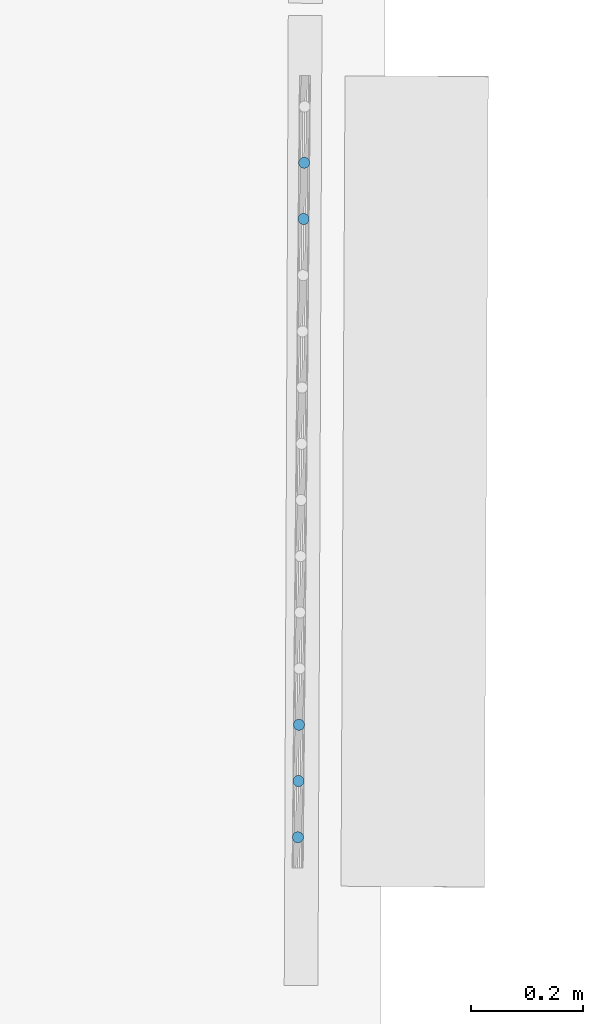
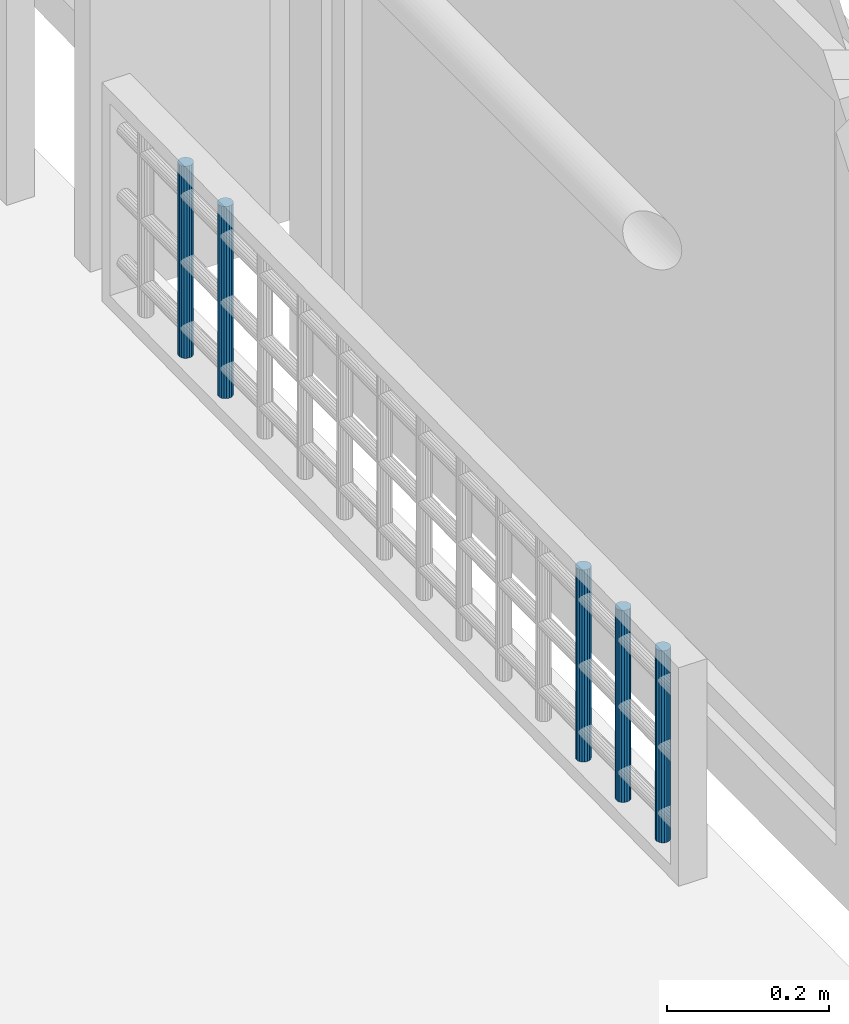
# One storey, part 26 of 66: 5 members, 1 element without a shape of its own.
"""IFC2X3 building model written with IfcOpenShell, lengths in centimetres."""

from ifc_helpers import new_model, entity, si_unit, converted_unit, direction, frame, origin, origin_with_axes, place, context, subcontext, project, spatial, faceted_brep, material, type_object, element, aggregate, save


model = new_model("IFC2X3")

# Units and contexts
model_context = context("Model", 3, precision=0.0001, world=origin(), true_north=direction((0.225632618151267, 0.974212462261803, 0.0)))
body_context = subcontext(model_context, "Body", "Model", "MODEL_VIEW")
ifc_project = project(units=[si_unit("LENGTHUNIT", "METRE", prefix="CENTI"), si_unit("AREAUNIT", "SQUARE_METRE", prefix="CENTI"), si_unit("VOLUMEUNIT", "CUBIC_METRE", prefix="CENTI"), converted_unit("PLANEANGLEUNIT", "DEGREE", entity("IfcRatioMeasure", 0.0174532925), si_unit("PLANEANGLEUNIT", "RADIAN"), dimensions=[0, 0, 0, 0, 0, 0, 0])], contexts=[model_context])

# Site, building, storey
site_placement = place(None, origin_with_axes())
site = spatial("IfcSite", under=ifc_project, at=site_placement, Name="Default Site", CompositionType="ELEMENT")
building_placement = place(site_placement, origin_with_axes())
building = spatial("IfcBuilding", under=site, at=building_placement, Name="Default Building", CompositionType="ELEMENT")
storey_placement = place(building_placement, frame((0.0, 0.0, 477.795358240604), z_axis=(0.0, 0.0, 1.0), x_axis=(1.0, 0.0, 0.0)))
storey = spatial("IfcBuildingStorey", under=building, at=storey_placement, Name="Niveau 1", CompositionType="ELEMENT", Elevation=477.795358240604)

# Assembly, members
building_element_proxy_type = type_object("IfcBuildingElementProxyType", Name="Type Object", PredefinedType="NOTDEFINED")
assembly_placement = place(storey_placement, frame((1064.33713672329, -30.426748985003, 9.99999999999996), z_axis=(0.0, 0.0, 1.0), x_axis=(-0.00922380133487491, -0.999957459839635, 0.0)))
assembly = element("IfcElementAssembly", 1, at=assembly_placement, inside=storey, type_object=building_element_proxy_type, Name="Panneau 1702026", ObjectType="Precast panel", PredefinedType="USERDEFINED")
ifc_material = material(Name="Aluminium satiné")
member_1_placement = place(assembly_placement, frame((18.4396922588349, 0.342020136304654, 31.0000002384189), z_axis=(0.0, 0.0, 1.0), x_axis=(0.499998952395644, -0.866026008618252, 0.0)))
member_1 = element("IfcMember", 2, at=member_1_placement, material=ifc_material, Name="4294967074", context=body_context, shape_type="Brep", body=[
    faceted_brep([(3.92741394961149e-13, -3.08086889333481e-13, -3.44169137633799e-13), (-0.347296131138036, -2.96984659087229e-13, -3.44169137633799e-13), (-0.673647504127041, -0.118782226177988, -3.44169137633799e-13), (-0.9396916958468, -0.342020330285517, -3.44169137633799e-13), (-1.11333977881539, -0.64278847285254, -3.44169137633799e-13), (-1.17364672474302, -0.984808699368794, -3.44169137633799e-13), (-1.11333938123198, -1.32682953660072, -3.44169137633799e-13), (-0.939690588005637, -1.62759638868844, -3.44169137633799e-13), (-0.673645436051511, -1.85083308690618, -3.44169137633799e-13), (-0.347293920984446, -1.96961580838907, -3.44169137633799e-13), (2.2101539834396e-06, -1.96961580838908, -3.44169137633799e-13), (0.326354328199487, -1.85083229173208, -3.44169137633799e-13), (0.592398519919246, -1.62759418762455, -3.44169137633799e-13), (0.766046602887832, -1.32682604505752, -3.44169137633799e-13), (0.826353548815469, -0.984805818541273, -3.44169137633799e-13), (0.766045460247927, -0.642786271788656, -3.44169137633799e-13), (0.592396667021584, -0.342019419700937, -3.44169137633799e-13), (0.326352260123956, -0.118781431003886, -3.44169137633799e-13), (0.326352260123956, -0.118781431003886, -29.0000002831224), (0.592396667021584, -0.342019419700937, -29.0000002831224), (0.766045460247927, -0.642786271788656, -29.0000002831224), (0.826353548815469, -0.984805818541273, -29.0000002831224), (0.766046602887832, -1.32682604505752, -29.0000002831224), (0.592398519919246, -1.62759418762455, -29.0000002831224), (0.326354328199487, -1.85083229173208, -29.0000002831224), (2.2101539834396e-06, -1.96961580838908, -29.0000002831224), (-0.347293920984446, -1.96961580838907, -29.0000002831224), (-0.673645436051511, -1.85083308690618, -29.0000002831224), (-0.939690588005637, -1.62759638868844, -29.0000002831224), (-1.11333938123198, -1.32682953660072, -29.0000002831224), (-1.17364672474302, -0.984808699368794, -29.0000002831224), (-1.11333977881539, -0.64278847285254, -29.0000002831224), (-0.9396916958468, -0.342020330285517, -29.0000002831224), (-0.673647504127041, -0.118782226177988, -29.0000002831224), (-0.347296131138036, -2.96984659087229e-13, -29.0000002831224), (3.92741394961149e-13, -3.08086889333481e-13, -29.0000002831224), (0.59239704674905, -0.342018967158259, -3.4416913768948e-13), (0.592397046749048, -0.342018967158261, -29.0000002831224), (0.326352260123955, -0.118781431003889, -29.0000002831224), (0.766045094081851, -0.642786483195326, -3.44169137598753e-13), (0.766045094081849, -0.642786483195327, -29.0000002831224), (0.592396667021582, -0.342019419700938, -29.0000002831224), (0.826353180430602, -0.984805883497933, -3.44169137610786e-13), (0.8263531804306, -0.984805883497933, -29.0000002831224), (0.766045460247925, -0.642786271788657, -29.0000002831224), (0.766046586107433, -1.32682604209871, -3.44169137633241e-13), (0.766046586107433, -1.32682604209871, -29.0000002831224), (0.826353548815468, -0.984805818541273, -29.0000002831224), (0.326354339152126, -1.8508323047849, -3.44169137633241e-13), (0.326354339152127, -1.8508323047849, -29.0000002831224), (0.592398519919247, -1.62759418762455, -29.0000002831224), (2.01049554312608e-06, -1.96961525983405, -3.44169137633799e-13), (2.01049554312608e-06, -1.96961525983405, -29.0000002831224), (-0.347293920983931, -1.96961623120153, -3.44169137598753e-13), (-0.347293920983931, -1.96961623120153, -29.0000002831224), (2.2101539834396e-06, -1.96961580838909, -29.0000002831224), (-0.673645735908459, -1.85083391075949, -3.44169137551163e-13), (-0.673645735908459, -1.85083391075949, -29.0000002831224), (-0.347293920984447, -1.96961580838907, -29.0000002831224), (-0.939690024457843, -1.62759571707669, -3.44169137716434e-13), (-0.939690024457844, -1.62759571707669, -29.0000002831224), (-0.673645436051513, -1.85083308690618, -29.0000002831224), (-1.1133390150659, -1.32682932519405, -3.44169137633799e-13), (-1.1133390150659, -1.32682932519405, -29.0000002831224), (-1.17364729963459, -0.98480880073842, -3.44169137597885e-13), (-1.17364729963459, -0.98480880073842, -29.0000002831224), (-1.11333976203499, -0.642788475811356, -3.44169137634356e-13), (-1.11333976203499, -0.642788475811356, -29.0000002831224), (-0.673647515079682, -0.11878221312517, -3.44169137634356e-13), (-0.673647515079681, -0.118782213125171, -29.0000002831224), (-0.9396916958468, -0.342020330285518, -29.0000002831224), (-0.347296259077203, 3.51508376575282e-07, -3.44169137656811e-13), (-0.347296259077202, 3.51508374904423e-07, -29.0000002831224), (-0.67364750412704, -0.11878222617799, -29.0000002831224), (-1.22007701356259e-13, 4.22812149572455e-07, -3.44169137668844e-13), (-1.22007698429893e-13, 4.22812147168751e-07, -29.0000002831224), (-0.347296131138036, -2.99388362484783e-13, -29.0000002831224), (0.326352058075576, -0.118781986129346, -3.44169137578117e-13), (0.326352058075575, -0.118781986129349, -29.0000002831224), (3.91806523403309e-13, -3.10655437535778e-13, -29.0000002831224)], [[[0, 1, 2, 3, 4, 5, 6, 7, 8, 9, 10, 11, 12, 13, 14, 15, 16, 17]], [[18, 19, 20, 21, 22, 23, 24, 25, 26, 27, 28, 29, 30, 31, 32, 33, 34, 35]], [[17, 36, 37, 38]], [[16, 39, 40, 41]], [[15, 42, 43, 44]], [[14, 45, 46, 47]], [[13, 12, 23, 22]], [[12, 48, 49, 50]], [[11, 51, 52, 24]], [[10, 53, 54, 55]], [[9, 56, 57, 58]], [[8, 59, 60, 61]], [[7, 62, 63, 28]], [[6, 64, 65, 29]], [[5, 66, 67, 30]], [[4, 3, 32, 31]], [[3, 68, 69, 70]], [[2, 71, 72, 73]], [[1, 74, 75, 76]], [[0, 77, 78, 79]]]),
])
member_2_placement = place(assembly_placement, frame((28.4396916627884, 0.342020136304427, 31.0000002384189), z_axis=(0.0, 0.0, 1.0), x_axis=(0.499995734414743, -0.866027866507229, 0.0)))
member_2 = element("IfcMember", 3, at=member_2_placement, material=ifc_material, Name="4294967073", context=body_context, shape_type="Brep", body=[
    faceted_brep([(5.96744875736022e-13, -3.71924713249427e-13, -2.60902410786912e-13), (-0.347295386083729, -4.44089209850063e-13, -2.60902410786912e-13), (-0.673647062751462, -0.118784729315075, -2.60902410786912e-13), (-0.939691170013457, -0.342025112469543, -2.60902410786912e-13), (-1.11333739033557, -0.642792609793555, -2.60902410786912e-13), (-1.17364232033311, -0.984811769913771, -2.60902410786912e-13), (-1.11333370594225, -1.32683238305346, -2.60902410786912e-13), (-0.93968454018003, -1.6275998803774, -2.60902410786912e-13), (-0.673639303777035, -1.85083688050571, -2.60902410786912e-13), (-0.347286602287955, -1.96961709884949, -2.60902410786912e-13), (1.0273899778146e-05, -1.96961451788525, -2.60902410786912e-13), (0.326361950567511, -1.85082978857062, -2.60902410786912e-13), (0.592404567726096, -1.62759198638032, -2.60902410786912e-13), (0.766050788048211, -1.32682448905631, -2.60902410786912e-13), (0.826357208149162, -0.984802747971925, -2.60902410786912e-13), (0.766048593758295, -0.642782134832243, -2.60902410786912e-13), (0.592397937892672, -0.342017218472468, -2.60902410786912e-13), (0.326352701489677, -0.118780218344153, -2.60902410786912e-13), (0.326352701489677, -0.118780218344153, -29.0000002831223), (0.592397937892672, -0.342017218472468, -29.0000002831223), (0.766048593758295, -0.642782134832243, -29.0000002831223), (0.826357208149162, -0.984802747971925, -29.0000002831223), (0.766050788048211, -1.32682448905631, -29.0000002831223), (0.592404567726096, -1.62759198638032, -29.0000002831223), (0.326361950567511, -1.85082978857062, -29.0000002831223), (1.0273899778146e-05, -1.96961451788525, -29.0000002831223), (-0.347286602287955, -1.96961709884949, -29.0000002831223), (-0.673639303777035, -1.85083688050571, -29.0000002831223), (-0.93968454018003, -1.6275998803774, -29.0000002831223), (-1.11333370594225, -1.32683238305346, -29.0000002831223), (-1.17364232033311, -0.984811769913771, -29.0000002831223), (-1.11333739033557, -0.642792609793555, -29.0000002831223), (-0.939691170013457, -0.342025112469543, -29.0000002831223), (-0.673647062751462, -0.118784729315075, -29.0000002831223), (-0.347295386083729, -4.44089209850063e-13, -29.0000002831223), (5.96744875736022e-13, -3.71924713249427e-13, -29.0000002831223), (0.592398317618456, -0.342016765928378, -2.60902410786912e-13), (0.592398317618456, -0.342016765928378, -29.0000002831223), (0.766047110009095, -0.642782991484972, -2.60902410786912e-13), (0.766047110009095, -0.642782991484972, -29.0000002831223), (0.826357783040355, -0.984802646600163, -2.60902410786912e-13), (0.826357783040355, -0.984802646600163, -29.0000002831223), (0.766051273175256, -1.32682457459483, -2.60902410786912e-13), (0.766051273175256, -1.32682457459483, -29.0000002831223), (0.592404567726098, -1.62759198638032, -2.60902410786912e-13), (0.592404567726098, -1.62759198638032, -29.0000002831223), (0.326362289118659, -1.85083019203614, -2.60902410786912e-13), (0.326362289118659, -1.85083019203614, -29.0000002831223), (1.00742392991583e-05, -1.96961396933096, -2.60902410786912e-13), (1.00742392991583e-05, -1.96961396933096, -29.0000002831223), (-0.347286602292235, -1.96961623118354, -2.60902410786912e-13), (-0.347286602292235, -1.96961623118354, -29.0000002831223), (-0.673639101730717, -1.8508363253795, -2.60902410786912e-13), (-0.673639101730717, -1.8508363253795, -29.0000002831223), (-0.939684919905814, -1.62760033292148, -2.60902410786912e-13), (-0.939684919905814, -1.62760033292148, -29.0000002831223), (-1.11333445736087, -1.32683281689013, -2.60902410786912e-13), (-1.11333445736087, -1.32683281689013, -29.0000002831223), (-1.17364289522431, -0.984811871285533, -2.60902410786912e-13), (-1.17364289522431, -0.984811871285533, -29.0000002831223), (-1.1133368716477, -0.64279270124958, -2.60902410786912e-13), (-1.1133368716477, -0.64279270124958, -29.0000002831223), (-0.939691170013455, -0.342025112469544, -2.60902410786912e-13), (-0.939691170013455, -0.342025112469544, -29.0000002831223), (-0.673646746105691, -0.118785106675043, -2.60902410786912e-13), (-0.673646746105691, -0.118785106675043, -29.0000002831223), (-0.347295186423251, -5.485547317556e-07, -2.60902410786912e-13), (-0.347295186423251, -5.485547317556e-07, -29.0000002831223), (-7.85532740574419e-12, 1.71329049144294e-06, -2.60902410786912e-13), (-7.85532740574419e-12, 1.71329049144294e-06, -29.0000002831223), (0.326352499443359, -0.118780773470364, -2.60902410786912e-13), (0.326352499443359, -0.118780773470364, -29.0000002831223)], [[[0, 1, 2, 3, 4, 5, 6, 7, 8, 9, 10, 11, 12, 13, 14, 15, 16, 17]], [[18, 19, 20, 21, 22, 23, 24, 25, 26, 27, 28, 29, 30, 31, 32, 33, 34, 35]], [[17, 36, 37, 18]], [[16, 38, 39, 19]], [[15, 40, 41, 20]], [[14, 42, 43, 21]], [[13, 44, 45, 22]], [[12, 46, 47, 23]], [[11, 48, 49, 24]], [[10, 50, 51, 25]], [[9, 52, 53, 26]], [[8, 54, 55, 27]], [[7, 56, 57, 28]], [[6, 58, 59, 29]], [[5, 60, 61, 30]], [[4, 62, 63, 31]], [[3, 64, 65, 32]], [[2, 66, 67, 33]], [[1, 68, 69, 34]], [[0, 70, 71, 35]]]),
])
member_3_placement = place(assembly_placement, frame((118.439698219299, 0.342020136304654, 31.0000002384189), z_axis=(0.0, 0.0, 1.0), x_axis=(0.500008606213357, -0.866020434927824, 0.0)))
member_3 = element("IfcMember", 4, at=member_3_placement, material=ifc_material, Name="4294967064", context=body_context, shape_type="Brep", body=[
    faceted_brep([(2.88657986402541e-13, -3.5527136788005e-13, -2.60902410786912e-13), (-0.347298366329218, -3.77475828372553e-13, -2.60902410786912e-13), (-0.673654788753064, -0.118785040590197, -2.60902410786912e-13), (-0.939699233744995, -0.342016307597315, -2.60902410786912e-13), (-1.11334843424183, -0.642778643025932, -2.60902410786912e-13), (-1.17366291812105, -0.984804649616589, -2.60902410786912e-13), (-1.11335640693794, -1.32682099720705, -2.60902410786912e-13), (-0.939713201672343, -1.62759365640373, -2.60902410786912e-13), (-0.673671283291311, -1.85083461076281, -2.60902410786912e-13), (-0.347320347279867, -1.96961967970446, -2.60902410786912e-13), (-2.19809503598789e-05, -1.96961967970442, -2.60902410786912e-13), (0.326328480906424, -1.85084496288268, -2.60902410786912e-13), (0.592378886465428, -1.6276033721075, -2.60902410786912e-13), (0.766028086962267, -1.32684103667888, -2.60902410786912e-13), (0.826336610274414, -0.984825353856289, -2.60902410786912e-13), (0.766036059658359, -0.642798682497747, -2.60902410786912e-13), (0.592392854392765, -0.34202602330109, -2.60902410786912e-13), (0.32634497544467, -0.118795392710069, -2.60902410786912e-13), (0.32634497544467, -0.118795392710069, -29.0000002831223), (0.592392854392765, -0.34202602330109, -29.0000002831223), (0.766036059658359, -0.642798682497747, -29.0000002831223), (0.826336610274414, -0.984825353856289, -29.0000002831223), (0.766028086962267, -1.32684103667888, -29.0000002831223), (0.592378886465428, -1.6276033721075, -29.0000002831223), (0.326328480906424, -1.85084496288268, -29.0000002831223), (-2.19809503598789e-05, -1.96961967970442, -29.0000002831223), (-0.347320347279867, -1.96961967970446, -29.0000002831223), (-0.673671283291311, -1.85083461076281, -29.0000002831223), (-0.939713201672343, -1.62759365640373, -29.0000002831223), (-1.11335640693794, -1.32682099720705, -29.0000002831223), (-1.17366291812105, -0.984804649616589, -29.0000002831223), (-1.11334843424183, -0.642778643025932, -29.0000002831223), (-0.939699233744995, -0.342016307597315, -29.0000002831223), (-0.673654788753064, -0.118785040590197, -29.0000002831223), (-0.347298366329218, -3.77475828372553e-13, -29.0000002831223), (2.88657986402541e-13, -3.5527136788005e-13, -29.0000002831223), (0.59238568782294, -0.342034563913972, -2.60902410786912e-13), (0.59238568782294, -0.342034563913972, -29.0000002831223), (0.76603904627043, -0.642796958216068, -2.60902410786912e-13), (0.76603904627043, -0.642796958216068, -29.0000002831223), (0.826340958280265, -0.984824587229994, -2.60902410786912e-13), (0.826340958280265, -0.984824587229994, -29.0000002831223), (0.766026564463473, -1.32684076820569, -2.60902410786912e-13), (0.766026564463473, -1.32684076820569, -29.0000002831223), (0.592378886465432, -1.6276033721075, -2.60902410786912e-13), (0.592378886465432, -1.6276033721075, -29.0000002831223), (0.32632685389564, -1.85084302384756, -2.60902410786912e-13), (0.32632685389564, -1.85084302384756, -29.0000002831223), (-2.08702523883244e-05, -1.96962273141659, -2.60902410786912e-13), (-2.08702523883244e-05, -1.96962273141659, -29.0000002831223), (-0.347320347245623, -1.96961623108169, -2.60902410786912e-13), (-0.347320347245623, -1.96961623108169, -29.0000002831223), (-0.673671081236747, -1.85083405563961, -2.60902410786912e-13), (-0.673671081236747, -1.85083405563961, -29.0000002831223), (-0.939713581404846, -1.62759410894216, -2.60902410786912e-13), (-0.939713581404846, -1.62759410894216, -29.0000002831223), (-1.11335939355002, -1.32682272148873, -2.60902410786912e-13), (-1.11335939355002, -1.32682272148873, -29.0000002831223), (-1.17365971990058, -0.984804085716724, -2.60902410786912e-13), (-1.17365971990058, -0.984804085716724, -29.0000002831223), (-1.11335092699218, -0.642778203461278, -2.60902410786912e-13), (-1.11335092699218, -0.642778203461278, -29.0000002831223), (-0.939699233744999, -0.342016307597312, -2.60902410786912e-13), (-0.939699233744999, -0.342016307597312, -29.0000002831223), (-0.673655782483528, -0.118783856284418, -2.60902410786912e-13), (-0.673655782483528, -0.118783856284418, -29.0000002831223), (-0.34729685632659, -4.14882708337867e-06, -2.60902410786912e-13), (-0.34729685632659, -4.14882708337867e-06, -29.0000002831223), (-3.39556689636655e-11, -3.44862310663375e-06, -2.60902410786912e-13), (-3.39556689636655e-11, -3.44862310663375e-06, -29.0000002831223), (0.326348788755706, -0.118784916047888, -2.60902410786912e-13), (0.326348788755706, -0.118784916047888, -29.0000002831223)], [[[0, 1, 2, 3, 4, 5, 6, 7, 8, 9, 10, 11, 12, 13, 14, 15, 16, 17]], [[18, 19, 20, 21, 22, 23, 24, 25, 26, 27, 28, 29, 30, 31, 32, 33, 34, 35]], [[17, 36, 37, 18]], [[16, 38, 39, 19]], [[15, 40, 41, 20]], [[14, 42, 43, 21]], [[13, 44, 45, 22]], [[12, 46, 47, 23]], [[11, 48, 49, 24]], [[10, 50, 51, 25]], [[9, 52, 53, 26]], [[8, 54, 55, 27]], [[7, 56, 57, 28]], [[6, 58, 59, 29]], [[5, 60, 61, 30]], [[4, 62, 63, 31]], [[3, 64, 65, 32]], [[2, 66, 67, 33]], [[1, 68, 69, 34]], [[0, 70, 71, 35]]]),
])
member_4_placement = place(assembly_placement, frame((128.439688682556, 0.342020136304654, 31.0000002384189), z_axis=(0.0, 0.0, 1.0), x_axis=(0.499982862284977, -0.866035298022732, 0.0)))
member_4 = element("IfcMember", 5, at=member_4_placement, material=ifc_material, Name="4294967063", context=body_context, shape_type="Brep", body=[
    faceted_brep([(3.10862446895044e-13, -3.10862446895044e-13, -2.44249065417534e-13), (-0.347292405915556, -3.33066907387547e-13, -2.44249065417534e-13), (-0.673645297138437, -0.118794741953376, -2.44249065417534e-13), (-0.939683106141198, -0.342033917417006, -2.44249065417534e-13), (-1.11332336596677, -0.64280141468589, -2.44249065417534e-13), (-1.1736276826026, -0.98482921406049, -2.44249065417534e-13), (-1.11331100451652, -1.32684376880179, -2.44249065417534e-13), (-0.939658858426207, -1.62761126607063, -2.44249065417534e-13), (-0.673610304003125, -1.85084431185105, -2.44249065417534e-13), (-0.347255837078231, -1.96961967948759, -2.44249065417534e-13), (4.25290978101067e-05, -1.96960935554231, -2.44249065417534e-13), (0.326389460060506, -1.8508249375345, -2.44249065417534e-13), (0.592433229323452, -1.62757543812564, -2.44249065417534e-13), (0.766073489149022, -1.32680794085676, -2.44249065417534e-13), (0.826371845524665, -0.984790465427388, -2.44249065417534e-13), (0.766061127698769, -0.642765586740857, -2.44249065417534e-13), (0.592403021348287, -0.342008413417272, -2.44249065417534e-13), (0.326354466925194, -0.118775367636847, -2.44249065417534e-13), (0.326354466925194, -0.118775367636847, -29.0000002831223), (0.592403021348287, -0.342008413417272, -29.0000002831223), (0.766061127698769, -0.642765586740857, -29.0000002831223), (0.826371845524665, -0.984790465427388, -29.0000002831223), (0.766073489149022, -1.32680794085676, -29.0000002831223), (0.592433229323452, -1.62757543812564, -29.0000002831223), (0.326389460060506, -1.8508249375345, -29.0000002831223), (4.25290978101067e-05, -1.96960935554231, -29.0000002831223), (-0.347255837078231, -1.96961967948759, -29.0000002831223), (-0.673610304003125, -1.85084431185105, -29.0000002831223), (-0.939658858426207, -1.62761126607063, -29.0000002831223), (-1.11331100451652, -1.32684376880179, -29.0000002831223), (-1.1736276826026, -0.98482921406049, -29.0000002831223), (-1.11332336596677, -0.64280141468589, -29.0000002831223), (-0.939683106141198, -0.342033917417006, -29.0000002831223), (-0.673645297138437, -0.118794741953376, -29.0000002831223), (-0.347292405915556, -3.33066907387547e-13, -29.0000002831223), (3.10862446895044e-13, -3.10862446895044e-13, -29.0000002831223), (0.59240340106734, -0.342007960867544, -2.44249065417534e-13), (0.59240340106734, -0.342007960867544, -29.0000002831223), (0.766055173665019, -0.642769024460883, -2.44249065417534e-13), (0.766055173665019, -0.642769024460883, -29.0000002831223), (0.826376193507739, -0.98478969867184, -2.44249065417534e-13), (0.826376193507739, -0.98478969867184, -29.0000002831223), (0.766071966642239, -1.32680767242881, -2.44249065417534e-13), (0.766071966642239, -1.32680767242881, -29.0000002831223), (0.592433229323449, -1.62757543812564, -2.44249065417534e-13), (0.592433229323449, -1.62757543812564, -29.0000002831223), (0.326387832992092, -1.85082299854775, -2.44249065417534e-13), (0.326387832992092, -1.85082299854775, -29.0000002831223), (4.36398864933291e-05, -1.96961240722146, -2.44249065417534e-13), (4.36398864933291e-05, -1.96961240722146, -29.0000002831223), (-0.347255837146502, -1.96961623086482, -2.44249065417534e-13), (-0.347255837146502, -1.96961623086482, -29.0000002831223), (-0.673610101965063, -1.85084375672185, -2.44249065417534e-13), (-0.673610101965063, -1.85084375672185, -29.0000002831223), (-0.939659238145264, -1.62761171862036, -2.44249065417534e-13), (-0.939659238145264, -1.62761171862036, -29.0000002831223), (-1.11331399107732, -1.32684549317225, -2.44249065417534e-13), (-1.11331399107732, -1.32684549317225, -29.0000002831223), (-1.1736244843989, -0.984828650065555, -2.44249065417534e-13), (-1.1736244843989, -0.984828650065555, -29.0000002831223), (-1.11332585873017, -0.642800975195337, -2.44249065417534e-13), (-1.11332585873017, -0.642800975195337, -29.0000002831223), (-0.939683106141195, -0.342033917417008, -2.44249065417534e-13), (-0.939683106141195, -0.342033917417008, -29.0000002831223), (-0.673646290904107, -0.118793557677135, -2.44249065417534e-13), (-0.673646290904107, -0.118793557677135, -29.0000002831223), (-0.347290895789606, -4.14878212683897e-06, -2.44249065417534e-13), (-0.347290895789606, -4.14878212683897e-06, -29.0000002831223), (-1.35794725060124e-10, 6.87520417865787e-06, -2.44249065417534e-13), (-1.35794725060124e-10, 6.87520417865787e-06, -29.0000002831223), (0.326354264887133, -0.118775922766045, -2.44249065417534e-13), (0.326354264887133, -0.118775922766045, -29.0000002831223)], [[[0, 1, 2, 3, 4, 5, 6, 7, 8, 9, 10, 11, 12, 13, 14, 15, 16, 17]], [[18, 19, 20, 21, 22, 23, 24, 25, 26, 27, 28, 29, 30, 31, 32, 33, 34, 35]], [[17, 36, 37, 18]], [[16, 38, 39, 19]], [[15, 40, 41, 20]], [[14, 42, 43, 21]], [[13, 44, 45, 22]], [[12, 46, 47, 23]], [[11, 48, 49, 24]], [[10, 50, 51, 25]], [[9, 52, 53, 26]], [[8, 54, 55, 27]], [[7, 56, 57, 28]], [[6, 58, 59, 29]], [[5, 60, 61, 30]], [[4, 62, 63, 31]], [[3, 64, 65, 32]], [[2, 66, 67, 33]], [[1, 68, 69, 34]], [[0, 70, 71, 35]]]),
])
member_5_placement = place(assembly_placement, frame((138.439691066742, 0.342020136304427, 31.0000002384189), z_axis=(0.0, 0.0, 1.0), x_axis=(0.500008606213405, -0.866020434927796, 0.0)))
member_5 = element("IfcMember", 6, at=member_5_placement, material=ifc_material, Name="4294967062", context=body_context, shape_type="Brep", body=[
    faceted_brep([(2.44249065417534e-13, -2.66453525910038e-13, -2.60902410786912e-13), (-0.347298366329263, -3.10862446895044e-13, -2.60902410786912e-13), (-0.673648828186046, -0.118774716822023, -2.60902410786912e-13), (-0.939693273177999, -0.342005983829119, -2.60902410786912e-13), (-1.11334843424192, -0.642778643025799, -2.60902410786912e-13), (-1.17365695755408, -0.98479432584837, -2.60902410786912e-13), (-1.11335044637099, -1.32681067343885, -2.60902410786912e-13), (-0.939707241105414, -1.62758333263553, -2.60902410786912e-13), (-0.673665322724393, -1.85082428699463, -2.60902410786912e-13), (-0.34731438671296, -1.96960935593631, -2.60902410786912e-13), (-1.60203834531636e-05, -1.96960935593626, -2.60902410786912e-13), (0.32633444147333, -1.85083463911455, -2.60902410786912e-13), (0.592378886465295, -1.62760337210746, -2.60902410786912e-13), (0.766034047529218, -1.32683071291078, -2.60902410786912e-13), (0.826342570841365, -0.984815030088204, -2.60902410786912e-13), (0.76603605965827, -0.642798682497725, -2.60902410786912e-13), (0.592392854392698, -0.342026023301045, -2.60902410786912e-13), (0.326350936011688, -0.11878506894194, -2.60902410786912e-13), (0.326350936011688, -0.11878506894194, -29.0000002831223), (0.592392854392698, -0.342026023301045, -29.0000002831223), (0.76603605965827, -0.642798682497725, -29.0000002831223), (0.826342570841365, -0.984815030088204, -29.0000002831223), (0.766034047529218, -1.32683071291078, -29.0000002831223), (0.592378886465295, -1.62760337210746, -29.0000002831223), (0.32633444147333, -1.85083463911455, -29.0000002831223), (-1.60203834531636e-05, -1.96960935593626, -29.0000002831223), (-0.34731438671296, -1.96960935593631, -29.0000002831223), (-0.673665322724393, -1.85082428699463, -29.0000002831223), (-0.939707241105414, -1.62758333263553, -29.0000002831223), (-1.11335044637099, -1.32681067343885, -29.0000002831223), (-1.17365695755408, -0.98479432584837, -29.0000002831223), (-1.11334843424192, -0.642778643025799, -29.0000002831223), (-0.939693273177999, -0.342005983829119, -29.0000002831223), (-0.673648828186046, -0.118774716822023, -29.0000002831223), (-0.347298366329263, -3.10862446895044e-13, -29.0000002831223), (2.44249065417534e-13, -2.66453525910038e-13, -29.0000002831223), (0.592393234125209, -0.342025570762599, -2.60902410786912e-13), (0.592393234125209, -0.342025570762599, -29.0000002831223), (0.76603904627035, -0.642796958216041, -2.60902410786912e-13), (0.76603904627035, -0.642796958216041, -29.0000002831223), (0.826339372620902, -0.984815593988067, -2.60902410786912e-13), (0.826339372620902, -0.984815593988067, -29.0000002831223), (0.766032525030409, -1.32683044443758, -2.60902410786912e-13), (0.766032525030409, -1.32683044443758, -29.0000002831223), (0.592378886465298, -1.62760337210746, -2.60902410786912e-13), (0.592378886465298, -1.62760337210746, -29.0000002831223), (0.326335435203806, -1.85083582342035, -2.60902410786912e-13), (0.326335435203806, -1.85083582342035, -29.0000002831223), (-1.49096854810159e-05, -1.96961240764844, -2.60902410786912e-13), (-1.49096854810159e-05, -1.96961240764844, -29.0000002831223), (-0.347314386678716, -1.96960590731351, -2.60902410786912e-13), (-0.347314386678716, -1.96960590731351, -29.0000002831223), (-0.673665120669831, -1.85082373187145, -2.60902410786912e-13), (-0.673665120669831, -1.85082373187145, -29.0000002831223), (-0.93970762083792, -1.62758378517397, -2.60902410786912e-13), (-0.93970762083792, -1.62758378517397, -29.0000002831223), (-1.11335343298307, -1.32681239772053, -2.60902410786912e-13), (-1.11335343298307, -1.32681239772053, -29.0000002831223), (-1.17365375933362, -0.984793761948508, -2.60902410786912e-13), (-1.17365375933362, -0.984793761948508, -29.0000002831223), (-1.11334691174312, -0.642778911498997, -2.60902410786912e-13), (-1.11334691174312, -0.642778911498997, -29.0000002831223), (-0.939693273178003, -0.342005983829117, -2.60902410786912e-13), (-0.939693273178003, -0.342005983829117, -29.0000002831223), (-0.673649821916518, -0.118773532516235, -2.60902410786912e-13), (-0.673649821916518, -0.118773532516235, -29.0000002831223), (-0.347299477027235, 3.05171186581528e-06, -2.60902410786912e-13), (-0.347299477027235, 3.05171186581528e-06, -29.0000002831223), (-3.40000784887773e-11, -3.44862305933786e-06, -2.60902410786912e-13), (-3.40000784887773e-11, -3.44862305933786e-06, -29.0000002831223), (0.326350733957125, -0.118785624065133, -2.60902410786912e-13), (0.326350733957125, -0.118785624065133, -29.0000002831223)], [[[0, 1, 2, 3, 4, 5, 6, 7, 8, 9, 10, 11, 12, 13, 14, 15, 16, 17]], [[18, 19, 20, 21, 22, 23, 24, 25, 26, 27, 28, 29, 30, 31, 32, 33, 34, 35]], [[17, 36, 37, 18]], [[16, 38, 39, 19]], [[15, 40, 41, 20]], [[14, 42, 43, 21]], [[13, 44, 45, 22]], [[12, 46, 47, 23]], [[11, 48, 49, 24]], [[10, 50, 51, 25]], [[9, 52, 53, 26]], [[8, 54, 55, 27]], [[7, 56, 57, 28]], [[6, 58, 59, 29]], [[5, 60, 61, 30]], [[4, 62, 63, 31]], [[3, 64, 65, 32]], [[2, 66, 67, 33]], [[1, 68, 69, 34]], [[0, 70, 71, 35]]]),
])
aggregate(assembly, [member_1, member_2, member_3, member_4, member_5])

save(model, "model.ifc")
